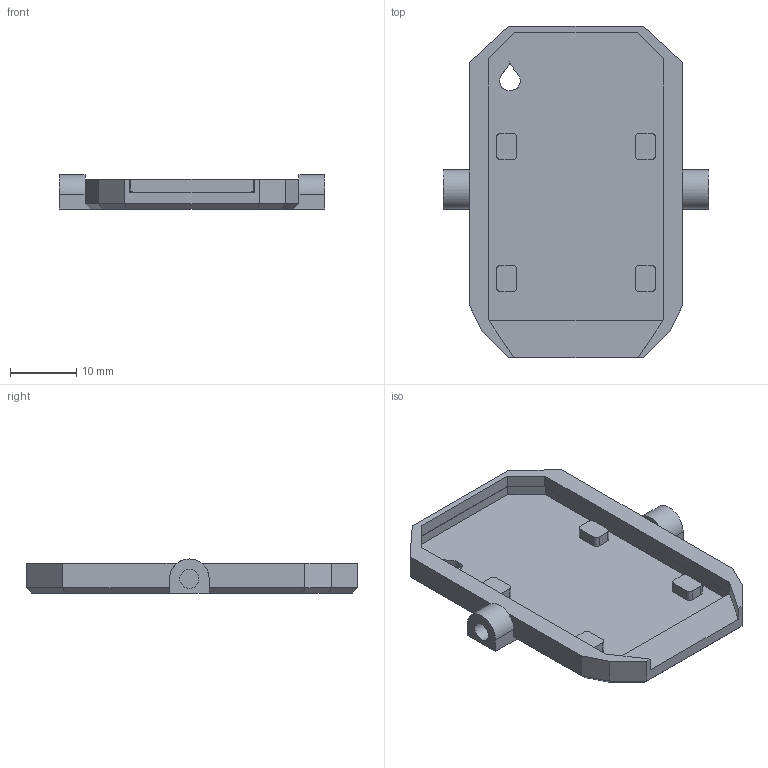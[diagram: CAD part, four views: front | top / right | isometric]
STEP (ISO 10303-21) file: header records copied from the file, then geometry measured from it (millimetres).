
FILE_DESCRIPTION(('Open CASCADE Model'),'2;1');
FILE_NAME('Open CASCADE Shape Model','2026-10-30T16:43:28',('Author'),( 'Open CASCADE'),'Open CASCADE STEP processor 8.0','Open CASCADE 8.0' ,'Unknown');
FILE_SCHEMA(('AP242_MANAGED_MODEL_BASED_3D_ENGINEERING_MIM_LF {1 0 10303 442 1 1 4 }' ));
Length unit declared in the file: millimetre
Products named in the file (1): Open CASCADE STEP translator 8.0 11
Bounding box: 40.2 x 50.2 x 5.15 mm (x, y, z)
Volume: 2927.6 mm3; surface area: 4450.7 mm2
Topology: 1 solids, 1 shells, 96 faces, 250 edges, 162 vertices
Faces by surface type: plane 72, cylinder 20, extrusion 4
Full cylindrical faces by diameter (mm): 2.9 x2
Entity records: 7070 total; most frequent: CARTESIAN_POINT 2089, DIRECTION 896, VECTOR 582, LINE 578, ORIENTED_EDGE 500, PCURVE 500, DEFINITIONAL_REPRESENTATION 500, EDGE_CURVE 250
